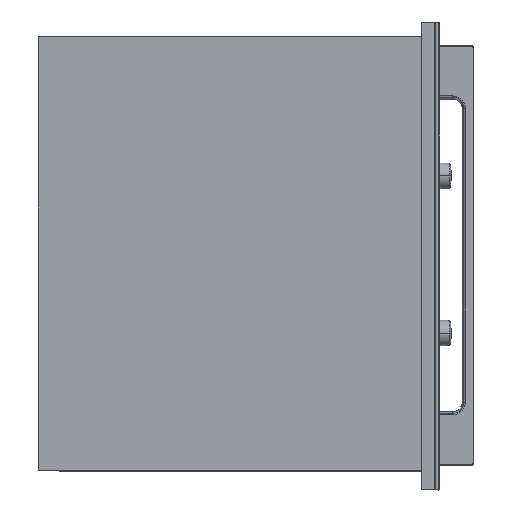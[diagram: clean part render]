
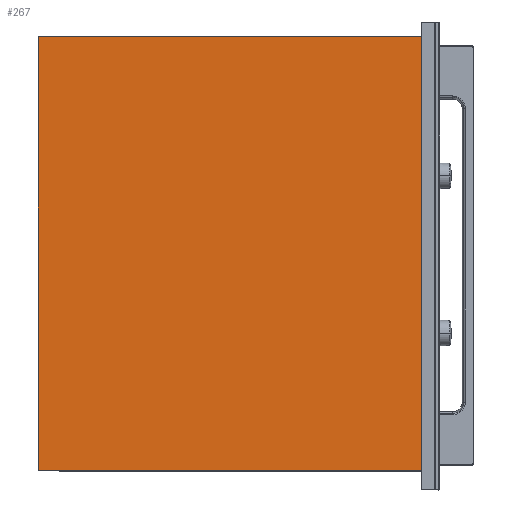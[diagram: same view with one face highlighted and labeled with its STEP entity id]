
A CAD part, top view. The second image highlights one B-rep face of the part: STEP entity #267.
In plain terms, the highlighted free-form (B-spline) face has degree [1, 1] with [2, 2] control points.
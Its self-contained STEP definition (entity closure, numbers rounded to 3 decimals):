
#267=ADVANCED_FACE('',(#413),#1773,.T.);
#413=FACE_OUTER_BOUND('',#567,.T.);
#567=EDGE_LOOP('',(#1159,#1160,#1161,#1162));
#1159=ORIENTED_EDGE('',*,*,#1500,.T.);
#1160=ORIENTED_EDGE('',*,*,#1501,.T.);
#1161=ORIENTED_EDGE('',*,*,#1502,.F.);
#1162=ORIENTED_EDGE('',*,*,#1494,.F.);
#1494=EDGE_CURVE('',#1695,#1696,#2002,.T.);
#1500=EDGE_CURVE('',#1695,#1701,#2008,.T.);
#1501=EDGE_CURVE('',#1701,#1702,#2009,.T.);
#1502=EDGE_CURVE('',#1696,#1702,#2010,.T.);
#1695=VERTEX_POINT('',#4728);
#1696=VERTEX_POINT('',#4729);
#1701=VERTEX_POINT('',#4734);
#1702=VERTEX_POINT('',#4735);
#1773=B_SPLINE_SURFACE_WITH_KNOTS('',1,1,((#4682,#4683),(#4684,#4685)),.UNSPECIFIED.,
.F.,.F.,.F.,(2,2),(2,2),(0.,1.),(0.,1.),.UNSPECIFIED.);
#2002=B_SPLINE_CURVE_WITH_KNOTS('',1,(#4626,#4627),.UNSPECIFIED.,.F.,.F.,
(2,2),(0.,1.),.UNSPECIFIED.);
#2008=B_SPLINE_CURVE_WITH_KNOTS('',1,(#4638,#4639),.UNSPECIFIED.,.F.,.F.,
(2,2),(0.,1.),.UNSPECIFIED.);
#2009=B_SPLINE_CURVE_WITH_KNOTS('',1,(#4640,#4641),.UNSPECIFIED.,.F.,.F.,
(2,2),(0.,1.),.UNSPECIFIED.);
#2010=B_SPLINE_CURVE_WITH_KNOTS('',1,(#4642,#4643),.UNSPECIFIED.,.F.,.F.,
(2,2),(0.,1.),.UNSPECIFIED.);
#4626=CARTESIAN_POINT('',(0.342,278.959,432.902));
#4627=CARTESIAN_POINT('',(0.342,-273.541,432.902));
#4638=CARTESIAN_POINT('',(0.342,278.959,432.902));
#4639=CARTESIAN_POINT('',(-488.044,278.959,432.902));
#4640=CARTESIAN_POINT('',(-488.044,278.959,432.902));
#4641=CARTESIAN_POINT('',(-488.044,-273.541,432.902));
#4642=CARTESIAN_POINT('',(0.342,-273.541,432.902));
#4643=CARTESIAN_POINT('',(-488.044,-273.541,432.902));
#4682=CARTESIAN_POINT('',(0.342,278.959,432.902));
#4683=CARTESIAN_POINT('',(0.342,-273.541,432.902));
#4684=CARTESIAN_POINT('',(-488.044,278.959,432.902));
#4685=CARTESIAN_POINT('',(-488.044,-273.541,432.902));
#4728=CARTESIAN_POINT('',(0.342,278.959,432.902));
#4729=CARTESIAN_POINT('',(0.342,-273.541,432.902));
#4734=CARTESIAN_POINT('',(-488.044,278.959,432.902));
#4735=CARTESIAN_POINT('',(-488.044,-273.541,432.902));
